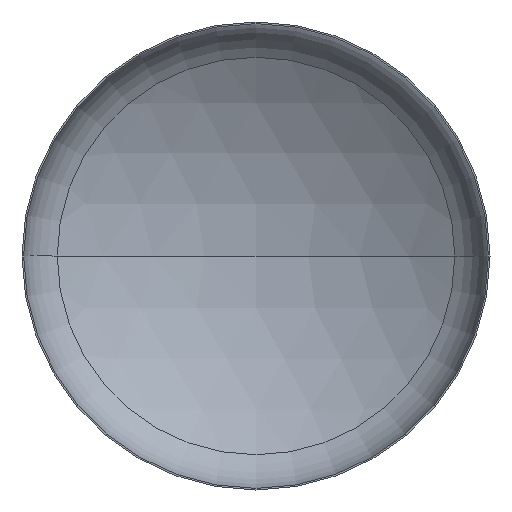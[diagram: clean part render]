
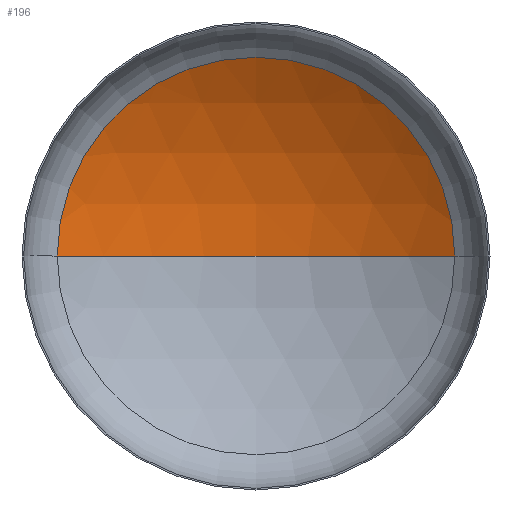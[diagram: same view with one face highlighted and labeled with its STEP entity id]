
A CAD part, front view. The second image highlights one B-rep face of the part: STEP entity #196.
In plain terms, the highlighted spherical face has radius 2560 mm.
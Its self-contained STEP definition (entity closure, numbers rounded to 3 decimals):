
#2 = VERTEX_POINT ( 'NONE', #244 ) ;
#11 = EDGE_LOOP ( 'NONE', ( #92, #66, #80 ) ) ;
#18 = VERTEX_POINT ( 'NONE', #279 ) ;
#28 = SPHERICAL_SURFACE ( 'NONE', #82, 2560. ) ;
#62 = FACE_OUTER_BOUND ( 'NONE', #11, .T. ) ;
#66 = ORIENTED_EDGE ( 'NONE', *, *, #176, .T. ) ;
#80 = ORIENTED_EDGE ( 'NONE', *, *, #174, .T. ) ;
#82 = AXIS2_PLACEMENT_3D ( 'NONE', #287, #202, #236 ) ;
#88 = VERTEX_POINT ( 'NONE', #230 ) ;
#92 = ORIENTED_EDGE ( 'NONE', *, *, #179, .F. ) ;
#96 = AXIS2_PLACEMENT_3D ( 'NONE', #276, #273, #272 ) ;
#115 = AXIS2_PLACEMENT_3D ( 'NONE', #305, #181, #201 ) ;
#117 = AXIS2_PLACEMENT_3D ( 'NONE', #208, #217, #259 ) ;
#174 = EDGE_CURVE ( 'NONE', #88, #18, #307, .T. ) ;
#176 = EDGE_CURVE ( 'NONE', #2, #88, #183, .T. ) ;
#179 = EDGE_CURVE ( 'NONE', #2, #18, #368, .T. ) ;
#181 = DIRECTION ( 'NONE',  ( 0., -1., 0. ) ) ;
#183 = CIRCLE ( 'NONE', #117, 2560. ) ;
#196 = ADVANCED_FACE ( 'NONE', ( #62 ), #28, .F. ) ;
#201 = DIRECTION ( 'NONE',  ( 1., 0., 0. ) ) ;
#202 = DIRECTION ( 'NONE',  ( 0., 0., -1. ) ) ;
#208 = CARTESIAN_POINT ( 'NONE',  ( 0., -1714.166, 0. ) ) ;
#217 = DIRECTION ( 'NONE',  ( 0., 0., -1. ) ) ;
#230 = CARTESIAN_POINT ( 'NONE',  ( 1359.15, 455.237, 0. ) ) ;
#236 = DIRECTION ( 'NONE',  ( -1., 0., 0. ) ) ;
#244 = CARTESIAN_POINT ( 'NONE',  ( 0., 845.834, 0. ) ) ;
#259 = DIRECTION ( 'NONE',  ( -1., 0., 0. ) ) ;
#272 = DIRECTION ( 'NONE',  ( 1., 0., 0. ) ) ;
#273 = DIRECTION ( 'NONE',  ( 0., 0., 1. ) ) ;
#276 = CARTESIAN_POINT ( 'NONE',  ( 0., -1714.166, 0. ) ) ;
#279 = CARTESIAN_POINT ( 'NONE',  ( -1359.15, 455.237, 0. ) ) ;
#287 = CARTESIAN_POINT ( 'NONE',  ( 0., -1714.166, 0. ) ) ;
#305 = CARTESIAN_POINT ( 'NONE',  ( 0., 455.237, 0. ) ) ;
#307 = CIRCLE ( 'NONE', #115, 1359.15 ) ;
#368 = CIRCLE ( 'NONE', #96, 2560. ) ;
